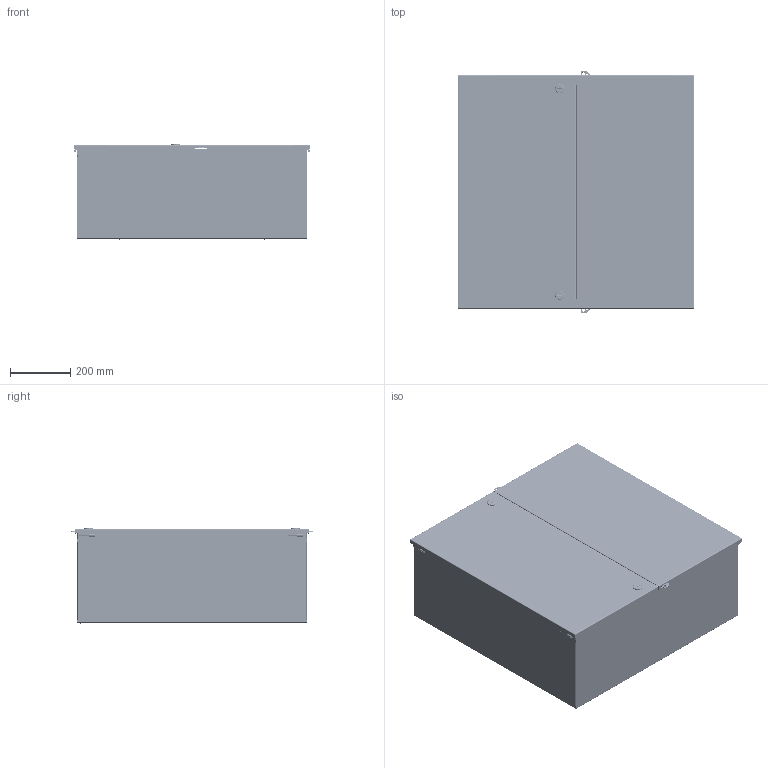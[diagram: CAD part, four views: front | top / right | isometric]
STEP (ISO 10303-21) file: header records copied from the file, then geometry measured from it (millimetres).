
FILE_DESCRIPTION(/* description */ ('1100MCDD 30" x 30" x 12" Assembly'),/* implementation_level */ '2;1');
FILE_NAME(/* name */ 'C:\Vault_Workspace\Inventor_Dwg\BoxCad\Result\1100MCDD303012\e-mail\3D\1100MCDD303012.stp',/* time_stamp */ '2023-03-29T14:12:15-04:00',/* author */ ('BoxCad'),/* organization */ (''),/* preprocessor_version */ 'ST-DEVELOPER v18.1',/* originating_system */ 'Autodesk Inventor 2020',/* authorisation */ '');
FILE_SCHEMA (('AUTOMOTIVE_DESIGN { 1 0 10303 214 3 1 1 }'));
Products named in the file (23): 1100MCDD303012; 1100MCDD303012B; 1100MCDD303012B-P; STK-Q-33510; STK-Q-33510_1; STK-Q-33410; STK-Q-33410_1; STK-Q-33410-A; STK-Q-33410-B; STK-Q-16005; 1100MCDD303012LD; 1100MCDD303012LD-P; STK-Q-78643; STK-Q-78631; STK-Q-78642; 1100MCDD303012RD; 1100MCDD303012RD-P; STK-Q-79000; STK-Q-05020; STK-Q-07310; 1100MCDD303012IP; 1100MCDD303012IP-P; STK-P-02400S
Assembly tree (56 placements, depth 4):
  1100MCDD303012
    1100MCDD303012B
      1100MCDD303012B-P
      STK-Q-33510
        STK-Q-33410-A
        STK-Q-33410-B
      STK-Q-33510_1
        STK-Q-33410-A
        STK-Q-33410-B
      STK-Q-33410
        STK-Q-33410-A
        STK-Q-33410-B
      STK-Q-33410_1
        STK-Q-33410-A
        STK-Q-33410-B
      STK-Q-16005  x8
      STK-P-02400S
    1100MCDD303012LD
      1100MCDD303012LD-P
      STK-Q-78631  x2
      STK-Q-78643
      STK-Q-78642
      STK-P-02400S
    1100MCDD303012RD
      1100MCDD303012RD-P
      STK-P-02400S
    STK-Q-79000  x2
    STK-Q-05020  x2
    STK-Q-07310  x16
    1100MCDD303012IP
      1100MCDD303012IP-P
      STK-P-02400S
Bounding box: 782.47 x 800.62 x 319.93 mm (x, y, z)
Volume: 3905077.2 mm3; surface area: 5397113.1 mm2
Topology: 44 solids, 44 shells, 11155 faces, 30876 edges, 19690 vertices
Faces by surface type: plane 3771, bspline 3648, cylinder 2808, torus 504, sphere 320, cone 104
Full cylindrical faces by diameter (mm): 0.75 x8, 0.762 x8, 4.191 x2, 4.496 x6, 4.75 x6, 5.156 x6, 6.65 x8, 6.85 x64, 7.137 x2, 7.366 x4, 7.9 x8, 9.5 x2, 10 x2, 12.7 x8, 30 x2
Entity records: 155668 total; most frequent: CARTESIAN_POINT 55464, ORIENTED_EDGE 22482, DIRECTION 17805, EDGE_CURVE 11241, VERTEX_POINT 7033, AXIS2_PLACEMENT_3D 6070, LINE 5665, VECTOR 5665
